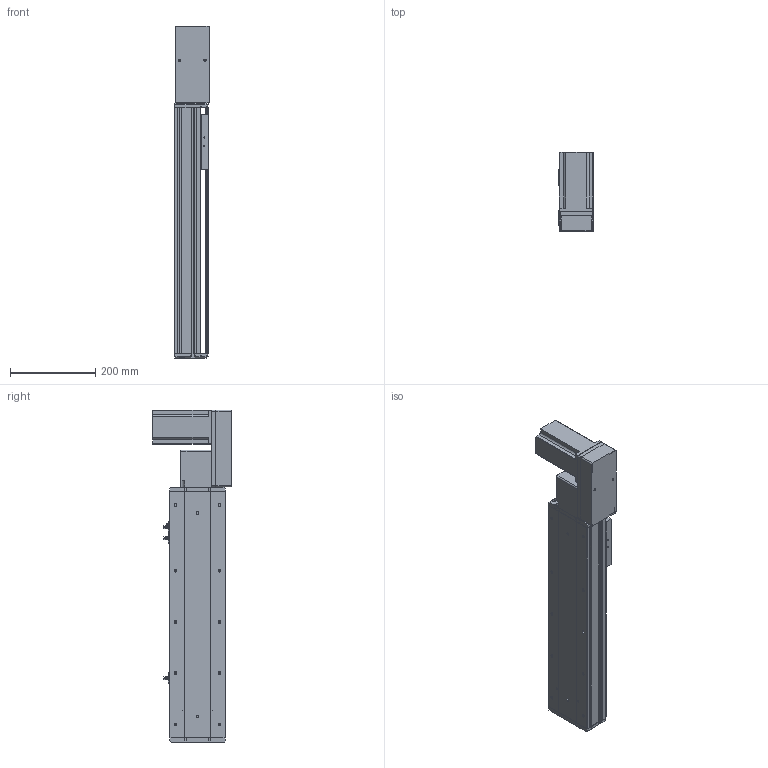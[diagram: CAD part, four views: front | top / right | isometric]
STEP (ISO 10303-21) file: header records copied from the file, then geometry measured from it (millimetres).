
FILE_DESCRIPTION (( 'STEP AP214' ), '1' );
FILE_NAME ('KSD130B-S350-MLB-CM .STEP', '2019-11-14T01:50:23', ( '微软用户' ), ( '微软中国' ), 'SwSTEP 2.0', 'SolidWorks 2014', '' );
FILE_SCHEMA (( 'AUTOMOTIVE_DESIGN' ));
Length unit declared in the file: millimetre
Products named in the file (12): 台达ECMA－C20807AS伺服电机; 130宽模组保护罩上下左右折-同步带; 130宽模组马达安装板连板左右折同步带; 覜茼え100遵圉猾敕; U倰嫖萇EEㄜSX672; 130宽盖板半封闭同步带-350行程; 130宽马达安装板同步带左-改; 130宽马达安装板同步带半封闭; 130宽同步带安装座半封闭; 130宽端盖同步带半封闭; 130宽底板半封闭同步带-350行程; KSD130B-S350-MLB-CM 
Assembly tree (13 placements, depth 2):
  KSD130B-S350-MLB-CM 
    130宽底板半封闭同步带-350行程
    130宽端盖同步带半封闭
    130宽同步带安装座半封闭
    130宽马达安装板同步带半封闭
    130宽马达安装板同步带左-改
    130宽盖板半封闭同步带-350行程
    U倰嫖萇EEㄜSX672  x3
    覜茼え100遵圉猾敕
    130宽模组马达安装板连板左右折同步带
    130宽模组保护罩上下左右折-同步带
    台达ECMA－C20807AS伺服电机
Bounding box: 81 x 184.8 x 777 mm (x, y, z)
Volume: 3235641.8 mm3; surface area: 823473.4 mm2
Topology: 14 solids, 14 shells, 1367 faces, 3821 edges, 2461 vertices
Faces by surface type: cylinder 634, plane 602, cone 131
Entity records: 43199 total; most frequent: CARTESIAN_POINT 7614, DIRECTION 6651, ORIENTED_EDGE 6366, EDGE_CURVE 3183, AXIS2_PLACEMENT_3D 2398, VERTEX_POINT 2085, VECTOR 1855, LINE 1855
